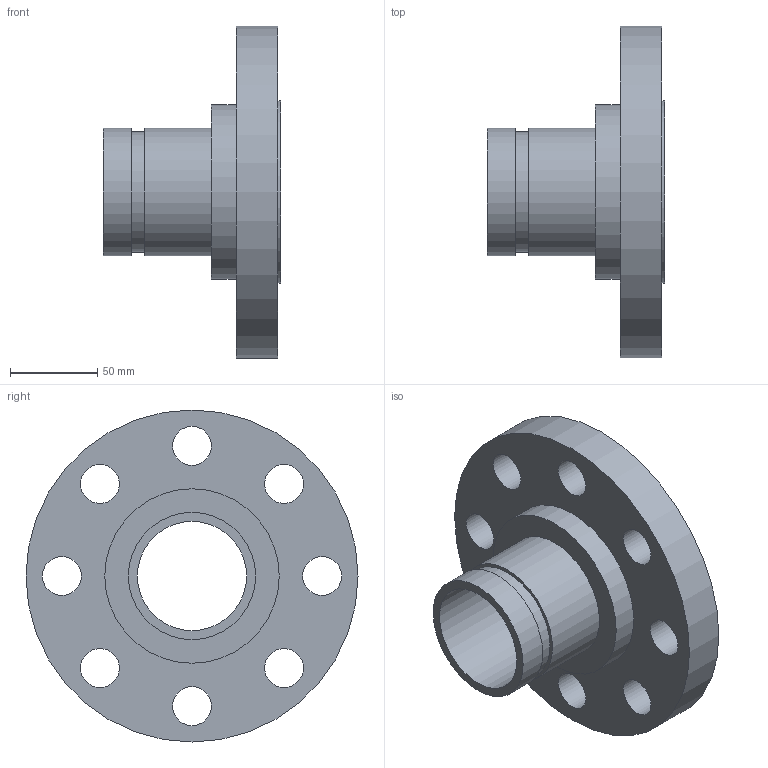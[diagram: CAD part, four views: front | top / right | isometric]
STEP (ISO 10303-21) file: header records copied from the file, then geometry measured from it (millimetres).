
FILE_DESCRIPTION(/* description */ ('VIC FLANGE ADAPTER No 46R','CAx-IF Rec.Pracs.---Representation and Presentation of Product Manufacturing Information (PMI)---4.0---2014-10-13'),/* implementation_level */ '2;1');
FILE_NAME(/* name */ 'C:\Users\kkamble\AppData\Roaming\Autodesk\ApplicationPlugins\Back Up\Victaulic_IPS_Flanged Adapter Nipple_CL 300 RF_No 46R (OGSxFLG)\Victaulic_IPS_Flanged Adapter Nipple_CL 300 RF_No 46R (OGSxFLG)_2.5 (65).stp',/* time_stamp */ '2020-07-26T22:25:40+06:00',/* author */ ('CONSTRUCTION PIPING SERVICES'),/* organization */ ('Victaulic'),/* preprocessor_version */ 'ST-DEVELOPER v17.2',/* originating_system */ 'Autodesk Inventor 2019',/* authorisation */ '');
FILE_SCHEMA (('AP242_MANAGED_MODEL_BASED_3D_ENGINEERING_MIM_LF { 1 0 10303 442 1 1 4 }'));
Length unit declared in the file: inch
Products named in the file (1): 046R-02.5
Bounding box: 101.6 x 190.5 x 190.5 mm (x, y, z)
Volume: 672811.9 mm3; surface area: 112239.2 mm2
Topology: 1 solids, 1 shells, 22 faces, 59 edges, 44 vertices
Faces by surface type: cylinder 15, plane 7
Full cylindrical faces by diameter (mm): 22.352 x8, 62.713 x1, 69.088 x1, 73.025 x2, 100.076 x1, 104.648 x1, 190.5 x1
Entity records: 849 total; most frequent: DIRECTION 149, CARTESIAN_POINT 126, ORIENTED_EDGE 118, AXIS2_PLACEMENT_3D 67, EDGE_CURVE 59, EDGE_LOOP 45, CIRCLE 44, VERTEX_POINT 44
